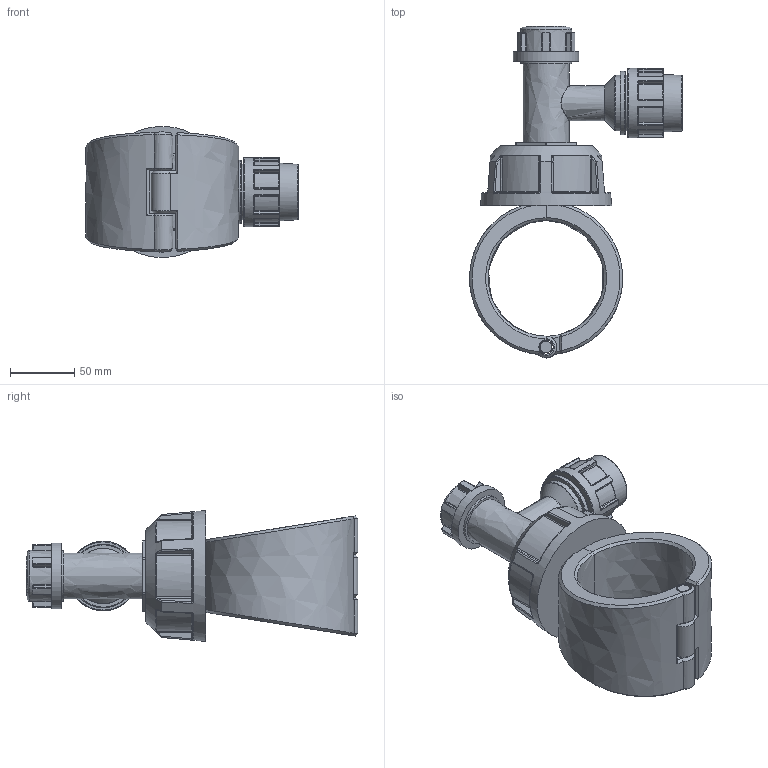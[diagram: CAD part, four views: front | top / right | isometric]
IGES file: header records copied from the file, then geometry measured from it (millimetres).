
Global section: file name: 163100090025_1631060900250A; native system: Autodesk Inventor 2019; preprocessor: unknown; author: comp2; date: 20220203.115714; units: millimetre
Bounding box: 165.5 x 258 x 101.8 mm (x, y, z)
Volume: 862106.8 mm3; surface area: 125515.7 mm2
Topology: 4 solids, 4 shells, 519 faces, 1253 edges, 754 vertices
Faces by surface type: bspline 519
